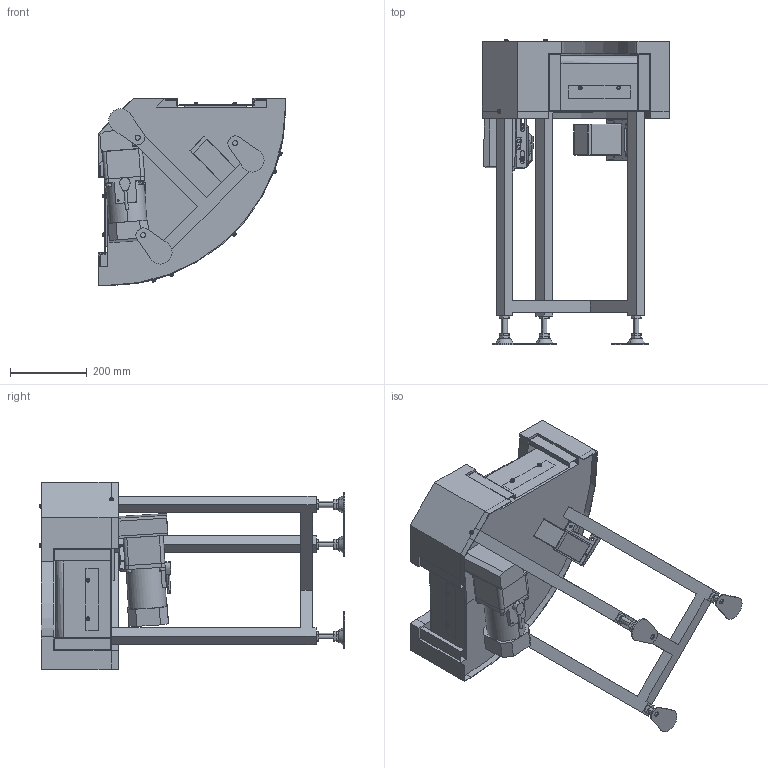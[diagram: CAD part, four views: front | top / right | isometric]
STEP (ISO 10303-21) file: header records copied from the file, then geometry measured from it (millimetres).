
FILE_DESCRIPTION (( 'STEP AP214' ), '1' );
FILE_NAME ('MBC2H-UD-320-200-90°-L-IV-5-O-H.STEP', '2024-01-17T00:16:46', ( '' ), ( '' ), 'SwSTEP 2.0', 'SolidWorks 2017', '' );
FILE_SCHEMA (( 'AUTOMOTIVE_DESIGN' ));
Length unit declared in the file: millimetre
Products named in the file (1): MBC2H-UD-320-200-90°-L-IV-5-O-H
Bounding box: 488.1 x 794.6 x 488.1 mm (x, y, z)
Volume: 24819150.6 mm3; surface area: 1922721 mm2
Topology: 33 solids, 34 shells, 1062 faces, 2490 edges, 1578 vertices
Faces by surface type: plane 561, cylinder 321, cone 84, torus 48, bspline 42, sphere 6
Entity records: 33623 total; most frequent: CARTESIAN_POINT 8693, DIRECTION 5187, ORIENTED_EDGE 4948, EDGE_CURVE 2474, AXIS2_PLACEMENT_3D 1875, VERTEX_POINT 1578, LINE 1437, VECTOR 1437
